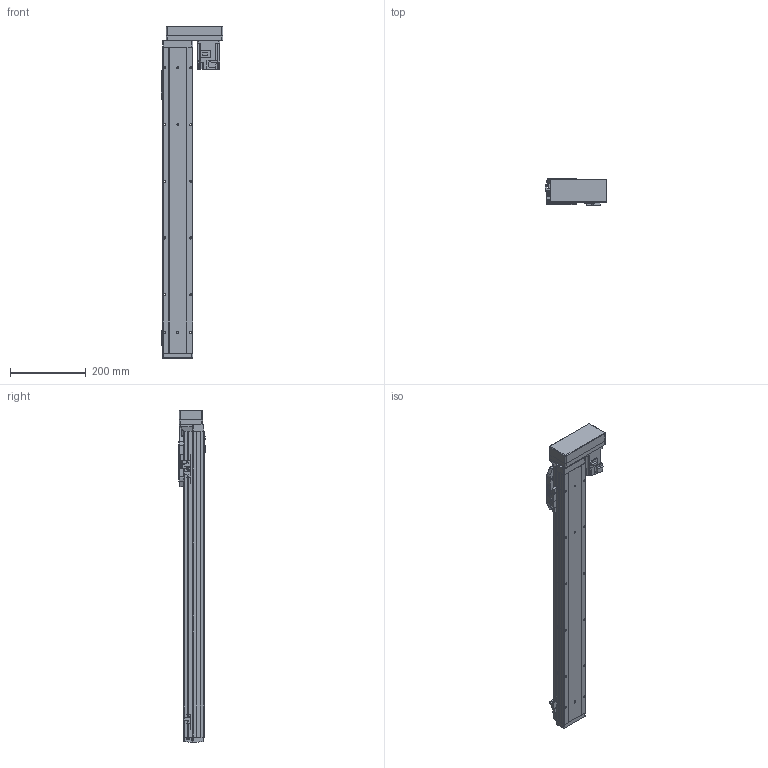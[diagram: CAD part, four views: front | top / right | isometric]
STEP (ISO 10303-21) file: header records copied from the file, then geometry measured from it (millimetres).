
FILE_DESCRIPTION (( 'STEP AP214' ), '1' );
FILE_NAME ('GSH8-650-BL-M20-1.step', '2025-01-07T06:06:18', ( '' ), ( '' ), 'SwSTEP 2.0', 'SolidWorks 2012', '' );
FILE_SCHEMA (( 'AUTOMOTIVE_DESIGN' ));
Length unit declared in the file: millimetre
Products named in the file (5): GSH8-BL-008; GSH8-GY-004; HG-KR23_200W_Motor; GSH8-BL-011-650-M20; GSH8-650-BL-M20-1
Assembly tree (4 placements, depth 2):
  GSH8-650-BL-M20-1
    GSH8-BL-011-650-M20
    GSH8-GY-004
    GSH8-BL-008
    HG-KR23_200W_Motor
Bounding box: 163 x 71.3 x 878.2 mm (x, y, z)
Volume: 2154570.4 mm3; surface area: 539029.1 mm2
Topology: 4 solids, 8 shells, 1133 faces, 2972 edges, 1912 vertices
Faces by surface type: plane 642, cylinder 395, torus 42, cone 26, bspline 24, sphere 4
Entity records: 45606 total; most frequent: CARTESIAN_POINT 11270, DIRECTION 6032, ORIENTED_EDGE 5928, EDGE_CURVE 2964, AXIS2_PLACEMENT_3D 2030, LINE 1972, VECTOR 1972, VERTEX_POINT 1908
